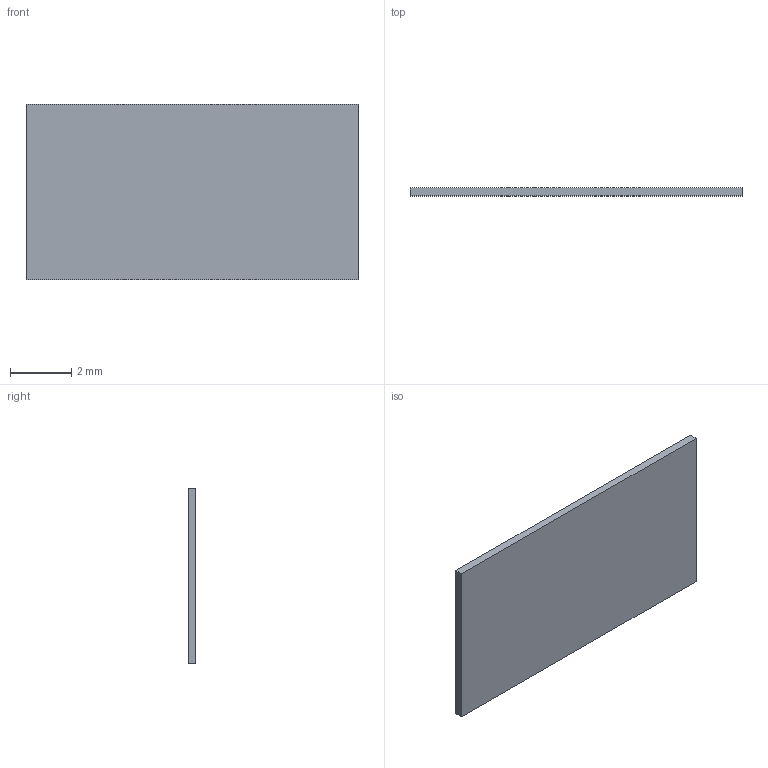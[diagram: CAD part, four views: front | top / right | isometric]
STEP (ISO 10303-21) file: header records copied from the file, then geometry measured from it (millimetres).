
FILE_DESCRIPTION(/* description */ (''),/* implementation_level */ '2;1');
FILE_NAME(/* name */ 'C27_R2_Battery_Upper_Liner_1.step',/* time_stamp */ '2026-09-10T17:49:01-07:00',/* author */ (''),/* organization */ (''),/* preprocessor_version */ 'ST-DEVELOPER v20.1',/* originating_system */ 'Autodesk Translation Framework v15.8.0.0',/* authorisation */ '');
FILE_SCHEMA (('AUTOMOTIVE_DESIGN { 1 0 10303 214 3 1 1 }'));
Length unit declared in the file: millimetre
Products named in the file (1): 2026-09-10-17-49-01-276
Bounding box: 10.8 x 0.26 x 5.7 mm (x, y, z)
Volume: 16 mm3; surface area: 131.7 mm2
Topology: 1 solids, 1 shells, 6 faces, 12 edges, 8 vertices
Faces by surface type: plane 6
Entity records: 189 total; most frequent: CARTESIAN_POINT 27, DIRECTION 26, ORIENTED_EDGE 24, LINE 12, VECTOR 12, EDGE_CURVE 12, VERTEX_POINT 8, AXIS2_PLACEMENT_3D 7
